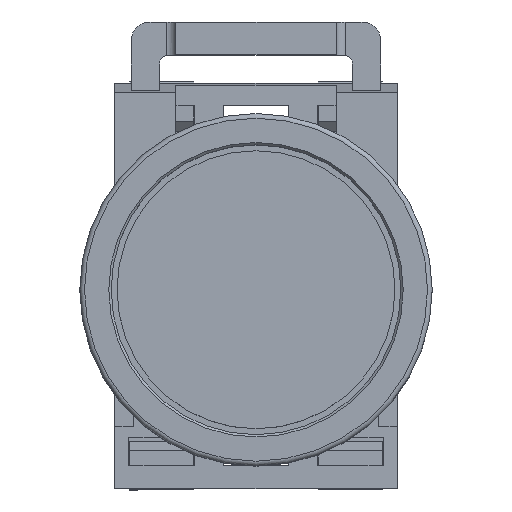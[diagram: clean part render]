
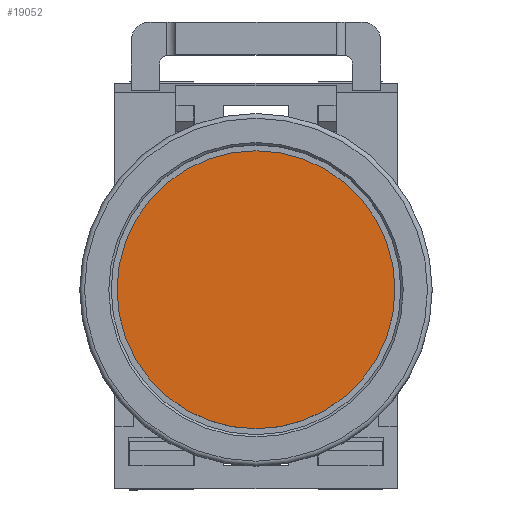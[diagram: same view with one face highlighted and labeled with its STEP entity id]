
A CAD part, top view. The second image highlights one B-rep face of the part: STEP entity #19052.
In plain terms, the highlighted planar face has unit normal (0, 0, 1).
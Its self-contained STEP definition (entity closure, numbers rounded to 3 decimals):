
#19036=CARTESIAN_POINT('',(7.625,21.,62.3));
#19037=DIRECTION('',(0.0,0.0,1.0));
#19038=DIRECTION('',(1.0,0.0,0.0));
#19039=AXIS2_PLACEMENT_3D('',#19036,#19037,#19038);
#19040=PLANE('',#19039);
#19041=CARTESIAN_POINT('',(0.25,21.,62.3));
#19042=VERTEX_POINT('',#19041);
#19043=CARTESIAN_POINT('',(15.0,21.,62.3));
#19044=DIRECTION('',(0.0,0.0,-1.0));
#19045=DIRECTION('',(-1.0,0.0,0.0));
#19046=AXIS2_PLACEMENT_3D('',#19043,#19044,#19045);
#19047=CIRCLE('',#19046,14.75);
#19048=EDGE_CURVE('',#19042,#19042,#19047,.T.);
#19049=ORIENTED_EDGE('',*,*,#19048,.F.);
#19050=EDGE_LOOP('',(#19049));
#19051=FACE_OUTER_BOUND('',#19050,.T.);
#19052=ADVANCED_FACE('',(#19051),#19040,.T.);
